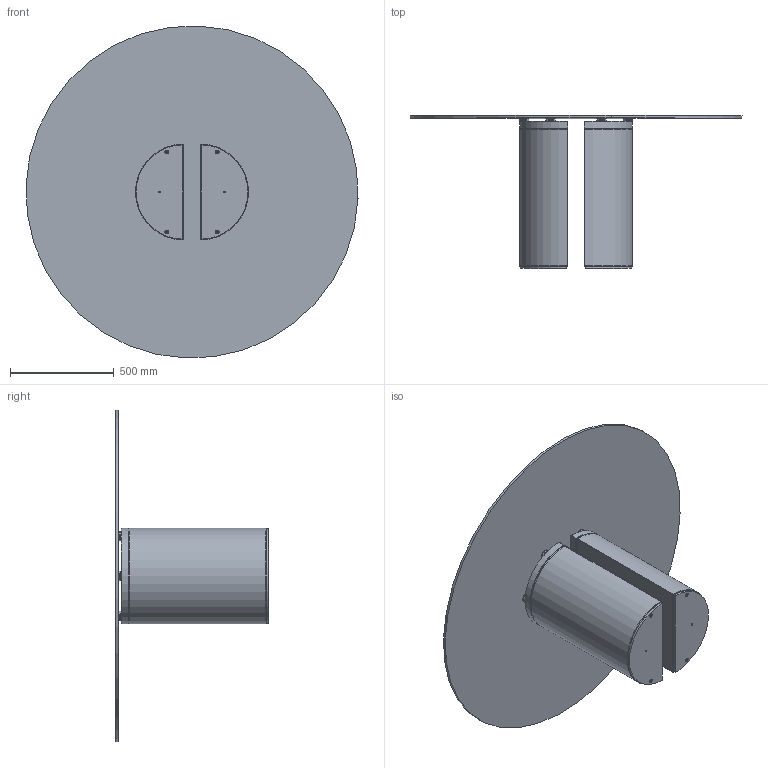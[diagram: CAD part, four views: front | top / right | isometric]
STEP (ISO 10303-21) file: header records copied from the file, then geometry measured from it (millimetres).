
FILE_DESCRIPTION (( 'STEP AP203' ), '1' );
FILE_NAME ('160.STEP', '2024-08-06T14:27:56', ( '' ), ( '' ), 'SwSTEP 2.0', 'SolidWorks 2022', '' );
FILE_SCHEMA (( 'CONFIG_CONTROL_DESIGN' ));
Length unit declared in the file: millimetre
Products named in the file (12): PLA000000SPE-01-SPESSORE PER PLAI TRASPARENTE; PIASTRE DOPPIE D.46 PER TRASPARENTE FEMMINA_Ø46; M8xXXmm_M8x50mm; C1XCRMXX-00-piani Rotondi Cristallo TRASPARENTE_C08 D.160cm; PIASTRE DOPPIE D.46 PER TRASPARENTE MASCHIO_Ø46; M8xXXmm_hex_M8X20mm; 160; CXXCRXXD-01-Piani Rotondi in Cristallo CON DISCO_C08CR0DR PIANO CRISTALLO Ø160cm DORA; Assieme Basamento PLAI_basamento per trasparente; Grano M6_M6x8; PLA000000BAS-00-PLAI BASE GREZZA; PLA000000ZOC-01-PLAI ZOCCOLO DELLA BASE
Assembly tree (25 placements, depth 3):
  160
    Assieme Basamento PLAI_basamento per trasparente  x2
      PLA000000BAS-00-PLAI BASE GREZZA
      PLA000000SPE-01-SPESSORE PER PLAI TRASPARENTE
      PIASTRE DOPPIE D.46 PER TRASPARENTE FEMMINA_Ø46
      PLA000000ZOC-01-PLAI ZOCCOLO DELLA BASE
      M8xXXmm_M8x50mm
      M8xXXmm_hex_M8X20mm
    Grano M6_M6x8  x4
    CXXCRXXD-01-Piani Rotondi in Cristallo CON DISCO_C08CR0DR PIANO CRISTALLO Ø160cm DORA
      C1XCRMXX-00-piani Rotondi Cristallo TRASPARENTE_C08 D.160cm
      PIASTRE DOPPIE D.46 PER TRASPARENTE MASCHIO_Ø46  x6
    PIASTRE DOPPIE D.46 PER TRASPARENTE FEMMINA_Ø46  x2
Bounding box: 1598.81 x 735.5 x 1598.81 mm (x, y, z)
Volume: 35634590.9 mm3; surface area: 8436126.1 mm2
Topology: 37 solids, 37 shells, 734 faces, 1634 edges, 982 vertices
Faces by surface type: plane 286, cylinder 264, cone 148, torus 24, bspline 12
Entity records: 8619 total; most frequent: CARTESIAN_POINT 2325, DIRECTION 1042, ORIENTED_EDGE 906, EDGE_CURVE 453, AXIS2_PLACEMENT_3D 417, VERTEX_POINT 279, EDGE_LOOP 238, VECTOR 208
